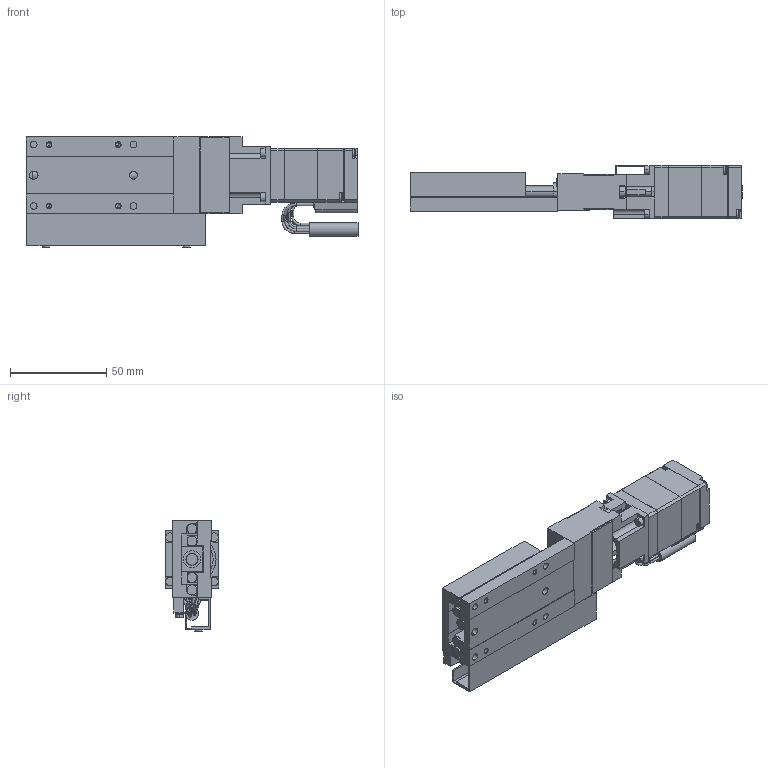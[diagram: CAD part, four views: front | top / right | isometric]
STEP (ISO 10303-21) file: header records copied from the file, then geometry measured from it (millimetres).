
FILE_DESCRIPTION(('STEP AP203'),'1');
FILE_NAME('C:/3D-Trans/3D_PG430T-R□-PA+240118.step','2024-02-26T08:35:45',(' '),(' '),'Spatial InterOp 3D',' ',' ');
FILE_SCHEMA(('CONFIG_CONTROL_DESIGN'));
Length unit declared in the file: millimetre
Products named in the file (6): 1; 2; 3; 4; 5; 6
Bounding box: 172.9 x 28 x 57.4 mm (x, y, z)
Volume: 109511.5 mm3; surface area: 51885.8 mm2
Topology: 6 solids, 6 shells, 714 faces, 1865 edges, 1176 vertices
Faces by surface type: plane 379, cylinder 213, torus 64, cone 58
Entity records: 22306 total; most frequent: CARTESIAN_POINT 3991, DIRECTION 3950, ORIENTED_EDGE 3674, EDGE_CURVE 1837, AXIS2_PLACEMENT_3D 1407, VERTEX_POINT 1176, LINE 1136, VECTOR 1136
